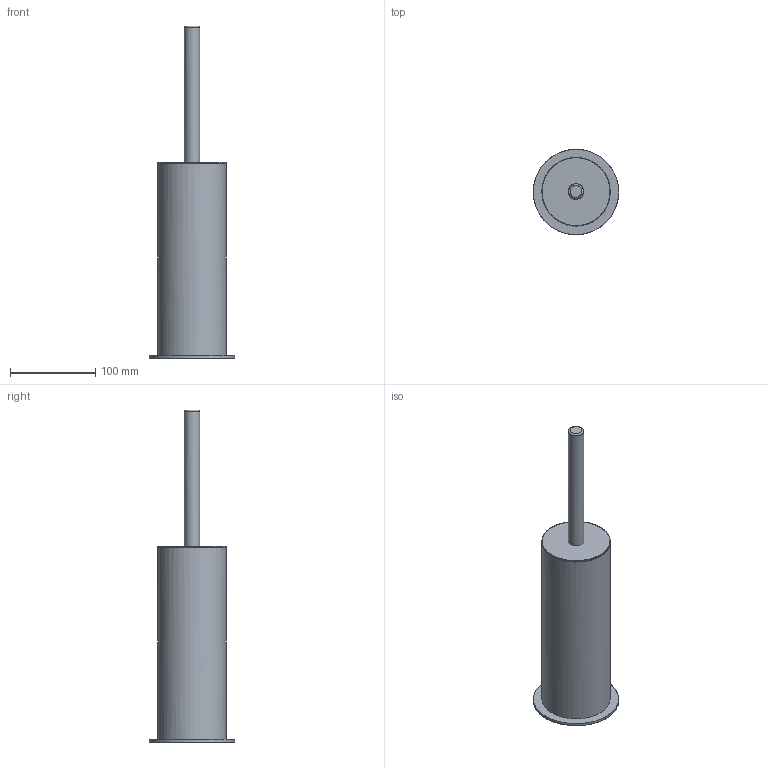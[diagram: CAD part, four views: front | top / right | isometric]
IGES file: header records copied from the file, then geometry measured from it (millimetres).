
Global section: file name: /Users/f/Desktop/II/AM253.igs; native system: Rhinoceros ( Sep  7 2010 ); preprocessor: Trout Lake IGES 012 Sep  7 2010; date: 100915.150107; units: millimetre
Bounding box: 100 x 100 x 389 mm (x, y, z)
Surface area: 98239.2 mm2 (no closed solid volume)
Topology: 0 solids, 0 shells, 15 faces, 167 edges, 160 vertices
Faces by surface type: bspline 15
